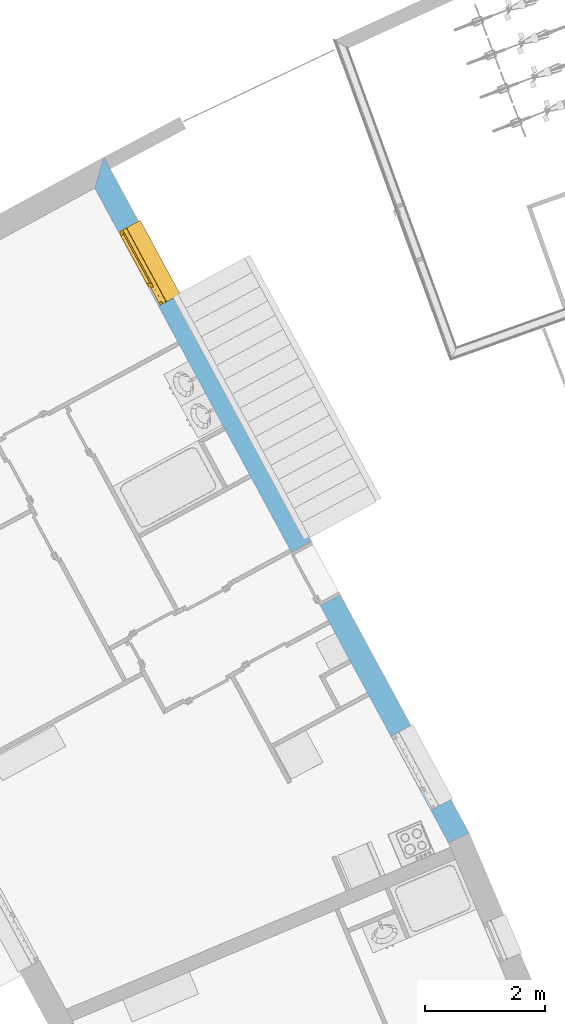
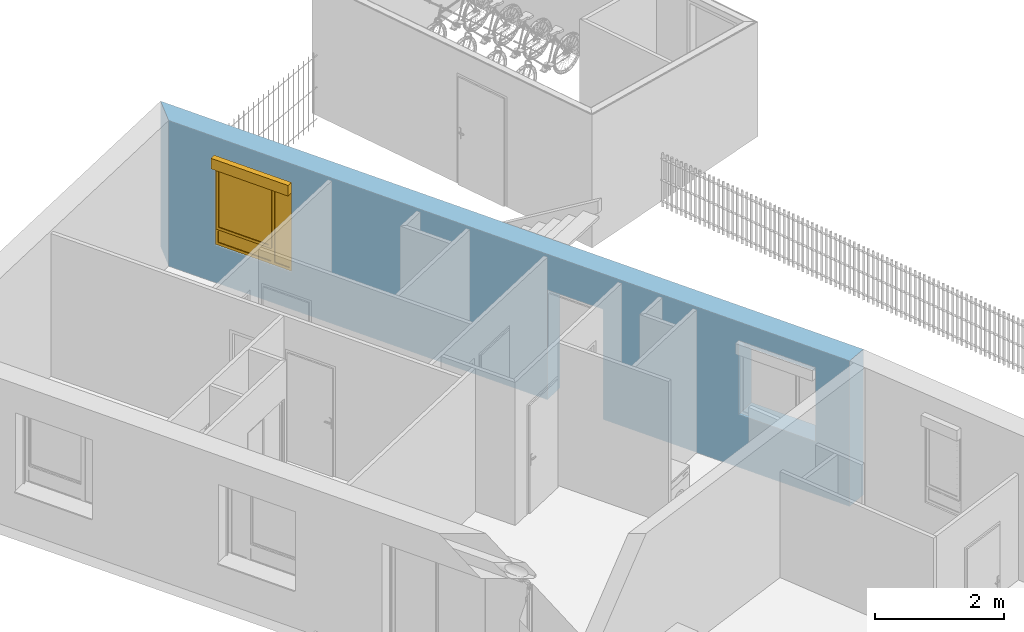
# One storey, part 67 of 195: 1 window, 3 openings, plus 1 element that does not belong to this part.
"""IFC2X3 building model written with IfcOpenShell, lengths in metres."""

from ifc_helpers import new_model, entity, si_unit, converted_unit, derived_unit, money_unit, direction, frame, origin_with_axes, origin_2d_with_axis, place, context, subcontext, project, spatial, polyline, rectangle, outline, extrude, open_shell, faceted_brep, surface_model, source, transform, mapped, material, layer, layer_set, layer_usage, type_object, element, fill, save


model = new_model("IFC2X3")

# Units and contexts
model_context = context("Model", 3, precision=1e-05, world=origin_with_axes(), true_north=direction((0.0, 1.0)))
body_context = subcontext(model_context, "Body", "Model", "MODEL_VIEW")
ifc_project = project(units=[si_unit("LENGTHUNIT", "METRE"), si_unit("AREAUNIT", "SQUARE_METRE"), si_unit("VOLUMEUNIT", "CUBIC_METRE"), converted_unit("PLANEANGLEUNIT", "DEGREE", entity("IfcPlaneAngleMeasure", 0.0174532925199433), si_unit("PLANEANGLEUNIT", "RADIAN"), dimensions=[0, 0, 0, 0, 0, 0, 0]), money_unit("CHF"), converted_unit("TIMEUNIT", "Year", entity("IfcTimeMeasure", 31557600.0), si_unit("TIMEUNIT", "SECOND"), dimensions=[0, 0, 1, 0, 0, 0, 0]), si_unit("MASSUNIT", "GRAM", prefix="KILO"), si_unit("THERMODYNAMICTEMPERATUREUNIT", "DEGREE_CELSIUS"), si_unit("LUMINOUSINTENSITYUNIT", "LUMEN"), si_unit("ENERGYUNIT", "JOULE", prefix="MEGA"), derived_unit("THERMALCONDUCTANCEUNIT", [(si_unit("POWERUNIT", "WATT"), 1), (si_unit("LENGTHUNIT", "METRE"), -1), (si_unit("THERMODYNAMICTEMPERATUREUNIT", "KELVIN"), -1)]), derived_unit("SPECIFICHEATCAPACITYUNIT", [(si_unit("ENERGYUNIT", "JOULE"), 1), (si_unit("MASSUNIT", "GRAM", prefix="KILO"), -1), (si_unit("THERMODYNAMICTEMPERATUREUNIT", "KELVIN"), -1)]), derived_unit("MASSDENSITYUNIT", [(si_unit("MASSUNIT", "GRAM", prefix="KILO"), 1), (si_unit("VOLUMEUNIT", "CUBIC_METRE"), -1)])], contexts=[model_context])

# Site, building, storey
site_placement = place(None, origin_with_axes())
site = spatial("IfcSite", under=ifc_project, at=site_placement, Name="Site", CompositionType="ELEMENT")
building_placement = place(site_placement, origin_with_axes())
building = spatial("IfcBuilding", under=site, at=building_placement, Name="Bâtiment", CompositionType="ELEMENT")
storey_placement = place(building_placement, origin_with_axes())
storey = spatial("IfcBuildingStorey", under=building, at=storey_placement, Name="rdc", CompositionType="ELEMENT", Elevation=0.0)

# Wall, openings, window
ifc_material_1 = material(Name="Parpaing 312445824")
ifc_layer_1 = layer(ifc_material_1, 0.22, ventilated="UNKNOWN")
ifc_material_2 = material(Name="Isolant styromousse 301821074")
ifc_layer_2 = layer(ifc_material_2, 0.16, ventilated="UNKNOWN")
ifc_layer_set = layer_set([ifc_layer_1, ifc_layer_2], Name="isol int 22+16 0836643197")
ifc_layer_usage = layer_usage(ifc_layer_set, "AXIS2", "NEGATIVE", 0.0)
wall_type = type_object("IfcWallType", Name="isol int 22+16 0836643197 380", PredefinedType="NOTDEFINED")
wall_placement = place(storey_placement, frame((9561.285709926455, -1024.008620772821, 57.7), z_axis=(0.0, 0.0, 1.0), x_axis=(0.4753186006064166, -0.8798137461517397, 0.0)))
wall = element("IfcWallStandardCase", 1, at=wall_placement, inside=storey, type_object=wall_type, material=ifc_layer_usage, Name="Mur-113", context=body_context, shape_type="SweptSolid", body=[
    extrude(outline(polyline([(0.3809761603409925, -0.3800000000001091), (12.75104633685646, -0.3800000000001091), (12.76934803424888, 0.0), (0.0, 0.0), (0.3809761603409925, -0.3800000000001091)])), origin_with_axes(), (0.0, 0.0, 1.0), 2.75),
])
opening_1_placement = place(wall_placement, frame((1.910548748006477, 0.0, 0.7000000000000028), z_axis=(0.0, 0.0, 1.0), x_axis=(1.0, 0.0, 0.0)))
opening_1 = element("IfcOpeningElement", 2, at=opening_1_placement, cuts=wall, Name="Fen-045", context=body_context, shape_type="Brep", body=[
    faceted_brep([(-0.6999999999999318, -0.2199999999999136, 1.5), (0.7000000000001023, -0.2199999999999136, 1.5), (0.7000000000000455, 5.341037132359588, 1.5), (-0.6999999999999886, 5.341037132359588, 1.5), (-0.6999999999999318, -0.2199999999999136, 1.700000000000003), (0.7000000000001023, -0.2199999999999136, 1.700000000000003), (0.7000000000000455, -0.3000000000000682, 1.5), (0.7000000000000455, -0.3000000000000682, 0.0), (0.7000000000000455, 5.341037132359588, 0.0), (-0.6999999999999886, 5.341037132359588, 0.0), (-0.6999999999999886, -0.2999999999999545, 1.5), (-0.7000000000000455, -0.2999999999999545, 0.0), (-0.6999999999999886, -0.4800000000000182, 1.5), (-0.6999999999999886, -0.4800000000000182, 1.700000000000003), (0.7000000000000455, -0.4800000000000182, 1.700000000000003), (0.7000000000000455, -0.4800000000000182, 1.5), (0.6999999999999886, -5.721037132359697, 1.5), (0.6999999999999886, -5.721037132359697, 0.0), (-0.7000000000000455, -5.721037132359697, 0.0), (-0.7000000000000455, -5.721037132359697, 1.5)], [[[0, 1, 2, 3]], [[1, 0, 4, 5]], [[1, 6, 7, 8, 2]], [[2, 8, 9, 3]], [[10, 0, 3, 9, 11]], [[0, 10, 12, 13, 4]], [[14, 5, 4, 13]], [[6, 1, 5, 14, 15]], [[6, 15, 16, 17, 7]], [[7, 11, 9, 8]], [[12, 10, 11, 18, 19]], [[12, 15, 14, 13]], [[15, 12, 19, 16]], [[19, 18, 17, 16]], [[11, 7, 17, 18]]]),
])
opening_2_placement = place(wall_placement, frame((11.43670824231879, 0.0, 1.0), z_axis=(0.0, 0.0, 1.0), x_axis=(1.0, 0.0, 0.0)))
element("IfcOpeningElement", 3, at=opening_2_placement, cuts=wall, Name="Fen-045", context=body_context, shape_type="Brep", body=[
    faceted_brep([(-0.6999999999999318, -0.2199999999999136, 1.200000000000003), (0.7000000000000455, -0.2199999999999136, 1.200000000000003), (0.7000000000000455, 5.341037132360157, 1.200000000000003), (-0.6999999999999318, 5.341037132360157, 1.200000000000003), (-0.6999999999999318, -0.2199999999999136, 1.399999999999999), (0.7000000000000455, -0.2199999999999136, 1.399999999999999), (0.7000000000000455, -0.2999999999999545, 1.200000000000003), (0.7000000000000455, -0.2999999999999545, 0.0), (0.7000000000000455, 5.341037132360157, 0.0), (-0.6999999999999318, 5.341037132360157, 0.0), (-0.7000000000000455, -0.2999999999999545, 1.200000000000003), (-0.7000000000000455, -0.2999999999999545, 0.0), (-0.7000000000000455, -0.4800000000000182, 1.200000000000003), (-0.7000000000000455, -0.4800000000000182, 1.399999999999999), (0.7000000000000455, -0.4800000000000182, 1.399999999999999), (0.7000000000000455, -0.4800000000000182, 1.200000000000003), (0.7000000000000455, -5.721037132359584, 1.200000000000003), (0.7000000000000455, -5.721037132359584, 0.0), (-0.7000000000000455, -5.721037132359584, 0.0), (-0.7000000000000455, -5.721037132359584, 1.200000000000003)], [[[0, 1, 2, 3]], [[1, 0, 4, 5]], [[1, 6, 7, 8, 2]], [[2, 8, 9, 3]], [[10, 0, 3, 9, 11]], [[0, 10, 12, 13, 4]], [[14, 5, 4, 13]], [[6, 1, 5, 14, 15]], [[6, 15, 16, 17, 7]], [[7, 11, 9, 8]], [[12, 10, 11, 18, 19]], [[12, 15, 14, 13]], [[15, 12, 19, 16]], [[19, 18, 17, 16]], [[11, 7, 17, 18]]]),
])
opening_3_placement = place(wall_placement, frame((7.765329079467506, 0.0, 0.0), z_axis=(0.0, 0.0, 1.0), x_axis=(1.0, 0.0, 0.0)))
element("IfcOpeningElement", 4, at=opening_3_placement, cuts=wall, Name="Por-290", context=body_context, shape_type="SweptSolid", body=[
    extrude(rectangle(XDim=1.01000001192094, YDim=2.079999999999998, at=origin_2d_with_axis()), frame((-5.960487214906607e-09, 0.3799999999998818, 1.039999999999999), z_axis=(0.0, -1.0, 0.0), x_axis=(-1.0, 0.0, 0.0)), (0.0, 0.0, 1.0), 0.76),
])
window_style = type_object("IfcWindowStyle", Name="Fenêtre variable 27", ConstructionType="NOTDEFINED", OperationType="TRIPLE_PANEL_LEFT", ParameterTakesPrecedence=False, Sizeable=False)
shared_shape = source(origin_with_axes(), body_context, "Body", "SurfaceModel", [
    surface_model("IfcShellBasedSurfaceModel", [(0.7, -0.05100000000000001, 0.05), (-0.7, -0.05100000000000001, 0.05000000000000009), (-0.7, -0.05100000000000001, 0.04000000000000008), (0.7, -0.05100000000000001, 0.04), (-0.7, -0.3799999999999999, 0.02900000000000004), (0.7, -0.3799999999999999, 0.02899999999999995), (-0.7, -0.3799999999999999, 0.00900000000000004), (0.7, -0.3799999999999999, 0.008999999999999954), (-0.7, -0.3699999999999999, 0.01900000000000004), (0.7, -0.3699999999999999, 0.01899999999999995)], [open_shell([[[0, 1, 2, 3]], [[3, 2, 4, 5]], [[5, 4, 6, 7]], [[7, 6, 8, 9]]])]),
    faceted_brep([(0.7, -0.13, 1.7), (0.7, 0.13, 1.7), (0.697, 0.13, 1.7), (0.697, -0.13, 1.7), (0.7, -0.13, 1.5), (0.7, 0.13, 1.5), (0.697, 0.13, 1.5), (0.697, -0.13, 1.5)], [[[0, 1, 2, 3]], [[0, 4, 5, 1]], [[1, 5, 6, 2]], [[3, 2, 6, 7]], [[4, 0, 3, 7]], [[5, 4, 7, 6]]]),
    faceted_brep([(-0.6970000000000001, -0.1299999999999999, 1.7), (-0.6970000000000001, 0.1300000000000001, 1.7), (-0.7000000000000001, 0.1300000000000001, 1.7), (-0.7000000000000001, -0.1299999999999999, 1.7), (-0.6970000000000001, -0.1299999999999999, 1.5), (-0.6970000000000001, 0.1300000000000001, 1.5), (-0.7000000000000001, 0.1300000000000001, 1.5), (-0.7000000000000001, -0.1299999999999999, 1.5)], [[[0, 1, 2, 3]], [[0, 4, 5, 1]], [[1, 5, 6, 2]], [[3, 2, 6, 7]], [[4, 0, 3, 7]], [[5, 4, 7, 6]]]),
    faceted_brep([(0.697, -0.13, 1.5), (0.697, -0.13, 1.7), (-0.697, -0.1299999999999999, 1.7), (-0.697, -0.1299999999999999, 1.5), (0.697, -0.127, 1.5), (0.697, -0.127, 1.697), (0.697, 0.127, 1.697), (0.697, 0.127, 1.503), (0.697, -0.108, 1.503), (0.697, -0.108, 1.5), (0.697, 0.13, 1.5), (0.697, 0.13, 1.7), (-0.697, 0.1300000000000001, 1.7), (-0.697, 0.1300000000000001, 1.5), (-0.697, -0.1079999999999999, 1.5), (-0.697, -0.1079999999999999, 1.503), (-0.697, 0.1270000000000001, 1.503), (-0.697, 0.1270000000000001, 1.697), (-0.697, -0.1269999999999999, 1.697), (-0.697, -0.1269999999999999, 1.5)], [[[0, 1, 2, 3]], [[0, 4, 5, 6, 7, 8, 9, 10, 11, 1]], [[1, 11, 12, 2]], [[3, 2, 12, 13, 14, 15, 16, 17, 18, 19]], [[4, 0, 3, 19]], [[5, 4, 19, 18]], [[6, 5, 18, 17]], [[7, 6, 17, 16]], [[8, 7, 16, 15]], [[9, 8, 15, 14]], [[10, 9, 14, 13]], [[11, 10, 13, 12]]]),
    faceted_brep([(0.694, -0.08075423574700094, 1.585760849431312), (0.694, -0.07705479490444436, 1.571954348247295), (0.694, -0.07101408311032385, 1.559), (0.694, -0.06281564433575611, 1.547291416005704), (0.694, -0.05270858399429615, 1.537184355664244), (0.694, -0.04099999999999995, 1.528985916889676), (0.694, -0.02804565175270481, 1.522945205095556), (0.694, -0.01423915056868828, 1.519245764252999), (0.694, 0.0, 1.518), (0.694, 0.01423915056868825, 1.519245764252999), (0.694, 0.02804565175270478, 1.522945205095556), (0.694, 0.04099999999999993, 1.528985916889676), (0.694, 0.05270858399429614, 1.537184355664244), (0.694, 0.06281564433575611, 1.547291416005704), (0.694, 0.07101408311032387, 1.559), (0.694, 0.07705479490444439, 1.571954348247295), (0.694, 0.08075423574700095, 1.585760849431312), (0.694, 0.0819999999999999, 1.6), (0.694, 0.08075423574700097, 1.614239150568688), (0.694, 0.0770547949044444, 1.628045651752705), (0.694, 0.07101408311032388, 1.641), (0.694, 0.06281564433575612, 1.652708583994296), (0.694, 0.05270858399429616, 1.662815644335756), (0.694, 0.04099999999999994, 1.671014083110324), (0.694, 0.02804565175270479, 1.677054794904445), (0.694, 0.01423915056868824, 1.680754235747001), (0.694, 0.0, 1.682), (0.694, -0.01423915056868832, 1.680754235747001), (0.694, -0.02804565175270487, 1.677054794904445), (0.694, -0.04100000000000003, 1.671014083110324), (0.694, -0.05270858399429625, 1.662815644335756), (0.694, -0.06281564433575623, 1.652708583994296), (0.694, -0.07101408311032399, 1.641), (0.694, -0.07705479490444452, 1.628045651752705), (0.694, -0.0807542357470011, 1.614239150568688), (0.694, -0.08200000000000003, 1.6), (-0.694, -0.08075423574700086, 1.585760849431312), (-0.694, -0.07705479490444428, 1.571954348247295), (-0.694, -0.07101408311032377, 1.559), (-0.694, -0.06281564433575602, 1.547291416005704), (-0.694, -0.05270858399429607, 1.537184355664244), (-0.694, -0.04099999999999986, 1.528985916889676), (-0.694, -0.02804565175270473, 1.522945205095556), (-0.694, -0.0142391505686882, 1.519245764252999), (-0.694, 0.0, 1.518), (-0.694, 0.01423915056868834, 1.519245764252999), (-0.694, 0.02804565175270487, 1.522945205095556), (-0.694, 0.04100000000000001, 1.528985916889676), (-0.694, 0.05270858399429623, 1.537184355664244), (-0.694, 0.06281564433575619, 1.547291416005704), (-0.694, 0.07101408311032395, 1.559), (-0.694, 0.07705479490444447, 1.571954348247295), (-0.694, 0.08075423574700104, 1.585760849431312), (-0.694, 0.08199999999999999, 1.6), (-0.694, 0.08075423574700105, 1.614239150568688), (-0.694, 0.07705479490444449, 1.628045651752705), (-0.694, 0.07101408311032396, 1.641), (-0.694, 0.0628156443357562, 1.652708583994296), (-0.694, 0.05270858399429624, 1.662815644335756), (-0.694, 0.04100000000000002, 1.671014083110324), (-0.694, 0.02804565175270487, 1.677054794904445), (-0.694, 0.01423915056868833, 1.680754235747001), (-0.694, 0.0, 1.682), (-0.694, -0.01423915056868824, 1.680754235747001), (-0.694, -0.02804565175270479, 1.677054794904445), (-0.694, -0.04099999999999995, 1.671014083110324), (-0.694, -0.05270858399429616, 1.662815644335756), (-0.694, -0.06281564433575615, 1.652708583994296), (-0.694, -0.07101408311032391, 1.641), (-0.694, -0.07705479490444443, 1.628045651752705), (-0.694, -0.08075423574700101, 1.614239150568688), (-0.694, -0.08199999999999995, 1.6)], [[[0, 1, 2, 3, 4, 5, 6, 7, 8, 9, 10, 11, 12, 13, 14, 15, 16, 17, 18, 19, 20, 21, 22, 23, 24, 25, 26, 27, 28, 29, 30, 31, 32, 33, 34, 35]], [[1, 0, 36, 37]], [[2, 1, 37, 38]], [[3, 2, 38, 39]], [[4, 3, 39, 40]], [[5, 4, 40, 41]], [[6, 5, 41, 42]], [[7, 6, 42, 43]], [[8, 7, 43, 44]], [[9, 8, 44, 45]], [[10, 9, 45, 46]], [[11, 10, 46, 47]], [[12, 11, 47, 48]], [[13, 12, 48, 49]], [[14, 13, 49, 50]], [[15, 14, 50, 51]], [[16, 15, 51, 52]], [[17, 16, 52, 53]], [[18, 17, 53, 54]], [[19, 18, 54, 55]], [[20, 19, 55, 56]], [[21, 20, 56, 57]], [[22, 21, 57, 58]], [[23, 22, 58, 59]], [[24, 23, 59, 60]], [[25, 24, 60, 61]], [[26, 25, 61, 62]], [[27, 26, 62, 63]], [[28, 27, 63, 64]], [[29, 28, 64, 65]], [[30, 29, 65, 66]], [[31, 30, 66, 67]], [[32, 31, 67, 68]], [[33, 32, 68, 69]], [[34, 33, 69, 70]], [[35, 34, 70, 71]], [[0, 35, 71, 36]], [[36, 71, 70, 69, 68, 67, 66, 65, 64, 63, 62, 61, 60, 59, 58, 57, 56, 55, 54, 53, 52, 51, 50, 49, 48, 47, 46, 45, 44, 43, 42, 41, 40, 39, 38, 37]]]),
    faceted_brep([(-0.7, -0.105, 0.03), (-0.7, -0.13, 0.03), (-0.7, -0.1299999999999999, 1.5), (-0.7, -0.1049999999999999, 1.5), (-0.6749999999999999, -0.105, 0.03), (-0.6749999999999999, -0.108, 0.03), (-0.697, -0.108, 0.03), (-0.697, -0.127, 0.03), (-0.6749999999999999, -0.127, 0.03), (-0.6749999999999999, -0.13, 0.03), (-0.6749999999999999, -0.1299999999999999, 1.5), (-0.6749999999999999, -0.1269999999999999, 1.5), (-0.697, -0.1269999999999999, 1.5), (-0.697, -0.1079999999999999, 1.5), (-0.6749999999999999, -0.1079999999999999, 1.5), (-0.6749999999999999, -0.1049999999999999, 1.5)], [[[0, 1, 2, 3]], [[0, 4, 5, 6, 7, 8, 9, 1]], [[1, 9, 10, 2]], [[3, 2, 10, 11, 12, 13, 14, 15]], [[4, 0, 3, 15]], [[5, 4, 15, 14]], [[6, 5, 14, 13]], [[7, 6, 13, 12]], [[8, 7, 12, 11]], [[9, 8, 11, 10]]]),
    faceted_brep([(0.7, -0.105, 0.03), (0.7, -0.1049999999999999, 1.5), (0.7, -0.1299999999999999, 1.5), (0.7, -0.13, 0.03), (0.6749999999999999, -0.105, 0.03), (0.6749999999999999, -0.1049999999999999, 1.5), (0.6749999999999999, -0.1079999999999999, 1.5), (0.697, -0.1079999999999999, 1.5), (0.697, -0.1269999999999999, 1.5), (0.6749999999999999, -0.1269999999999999, 1.5), (0.6749999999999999, -0.1299999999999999, 1.5), (0.6749999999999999, -0.13, 0.03), (0.6749999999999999, -0.127, 0.03), (0.697, -0.127, 0.03), (0.697, -0.108, 0.03), (0.6749999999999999, -0.108, 0.03)], [[[0, 1, 2, 3]], [[4, 5, 1, 0]], [[1, 5, 6, 7, 8, 9, 10, 2]], [[3, 2, 10, 11]], [[0, 3, 11, 12, 13, 14, 15, 4]], [[15, 6, 5, 4]], [[14, 7, 6, 15]], [[13, 8, 7, 14]], [[12, 9, 8, 13]], [[11, 10, 9, 12]]]),
    surface_model("IfcShellBasedSurfaceModel", [(0.697, -0.115, 1.6), (-0.697, -0.1149999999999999, 1.6), (-0.697, -0.12, 1.6), (0.697, -0.12, 1.6), (0.697, -0.115, 1.6), (0.697, -0.12, 1.6), (-0.697, -0.1199999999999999, 1.6), (-0.697, -0.1149999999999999, 1.6)], [open_shell([[[0, 1, 2, 3]], [[4, 5, 6, 7]]])]),
    faceted_brep([(0.697, -0.115, 1.6), (0.697, -0.1166666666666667, 1.583333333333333), (-0.697, -0.1166666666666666, 1.583333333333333), (-0.697, -0.1149999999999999, 1.6), (0.697, -0.12, 1.6), (0.697, -0.1216666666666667, 1.583333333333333), (0.697, -0.1216666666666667, 1.566666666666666), (0.697, -0.12, 1.55), (0.697, -0.115, 1.55), (0.697, -0.1166666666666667, 1.566666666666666), (-0.697, -0.1166666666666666, 1.566666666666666), (-0.697, -0.1149999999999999, 1.55), (-0.697, -0.1199999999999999, 1.55), (-0.697, -0.1216666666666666, 1.566666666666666), (-0.697, -0.1216666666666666, 1.583333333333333), (-0.697, -0.1199999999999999, 1.6)], [[[0, 1, 2, 3]], [[0, 4, 5, 6, 7, 8, 9, 1]], [[1, 9, 10, 2]], [[3, 2, 10, 11, 12, 13, 14, 15]], [[4, 0, 3, 15]], [[5, 4, 15, 14]], [[6, 5, 14, 13]], [[7, 6, 13, 12]], [[8, 7, 12, 11]], [[9, 8, 11, 10]]]),
    faceted_brep([(0.697, -0.115, 1.55), (0.697, -0.1166666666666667, 1.533333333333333), (-0.697, -0.1166666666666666, 1.533333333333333), (-0.697, -0.1149999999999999, 1.55), (0.697, -0.12, 1.55), (0.697, -0.1216666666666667, 1.533333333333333), (0.697, -0.1216666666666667, 1.516666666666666), (0.697, -0.12, 1.5), (0.697, -0.115, 1.5), (0.697, -0.1166666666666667, 1.516666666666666), (-0.697, -0.1166666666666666, 1.516666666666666), (-0.697, -0.1149999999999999, 1.5), (-0.697, -0.1199999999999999, 1.5), (-0.697, -0.1216666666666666, 1.516666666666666), (-0.697, -0.1216666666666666, 1.533333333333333), (-0.697, -0.1199999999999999, 1.55)], [[[0, 1, 2, 3]], [[0, 4, 5, 6, 7, 8, 9, 1]], [[1, 9, 10, 2]], [[3, 2, 10, 11, 12, 13, 14, 15]], [[4, 0, 3, 15]], [[5, 4, 15, 14]], [[6, 5, 14, 13]], [[7, 6, 13, 12]], [[8, 7, 12, 11]], [[9, 8, 11, 10]]]),
    faceted_brep([(0.6749999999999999, 0.0, 1.45), (0.6749999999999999, -0.02500000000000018, 1.45), (0.6499999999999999, -0.02500000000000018, 1.45), (0.6499999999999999, -0.05000000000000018, 1.45), (0.7, -0.05000000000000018, 1.45), (0.7, 0.0, 1.45), (0.6749999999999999, 0.0, 0.3099999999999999), (0.6749999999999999, -0.02500000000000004, 0.3099999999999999), (0.6499999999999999, -0.02500000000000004, 0.335), (0.6499999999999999, -0.02500000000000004, 0.3099999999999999), (0.6499999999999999, -0.05000000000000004, 0.335), (0.6499999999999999, -0.05000000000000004, 0.265), (0.6499999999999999, -0.05000000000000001, 0.05000000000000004), (0.7, -0.05000000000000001, 0.05000000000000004), (0.7, 0.0, 0.05000000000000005), (0.6499999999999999, 0.0, 0.05000000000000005), (0.6499999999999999, 0.0, 0.265), (0.6499999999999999, 0.0, 0.3099999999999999)], [[[0, 1, 2, 3, 4, 5]], [[1, 0, 6, 7]], [[8, 2, 1, 7, 9]], [[2, 8, 10, 3]], [[10, 11, 12, 13, 4, 3]], [[5, 4, 13, 14]], [[6, 0, 5, 14, 15, 16, 17]], [[6, 17, 9, 7]], [[9, 17, 16, 11, 10, 8]], [[15, 12, 11, 16]], [[14, 13, 12, 15]]]),
    faceted_brep([(-0.3068894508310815, -0.02500000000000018, 1.45), (-0.3318894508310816, -0.02500000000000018, 1.45), (-0.3318894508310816, 0.0, 1.45), (-0.3768894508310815, 0.0, 1.45), (-0.3768894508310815, -0.05000000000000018, 1.45), (-0.3068894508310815, -0.05000000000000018, 1.45), (-0.3068894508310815, -0.02500000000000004, 0.335), (-0.3068894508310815, -0.02500000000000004, 0.3099999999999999), (-0.3318894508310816, -0.02500000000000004, 0.3099999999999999), (-0.3318894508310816, 0.0, 0.3099999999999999), (-0.3068894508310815, 0.0, 0.3099999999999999), (-0.3068894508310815, 0.0, 0.265), (-0.3068894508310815, 0.0, 0.05000000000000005), (-0.3768894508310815, 0.0, 0.05000000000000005), (-0.3768894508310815, -0.05000000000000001, 0.05000000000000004), (-0.3068894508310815, -0.05000000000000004, 0.265), (-0.3068894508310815, -0.05000000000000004, 0.335), (-0.3068894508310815, -0.05000000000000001, 0.05000000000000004)], [[[0, 1, 2, 3, 4, 5]], [[1, 0, 6, 7, 8]], [[9, 2, 1, 8]], [[9, 10, 11, 12, 13, 3, 2]], [[13, 14, 4, 3]], [[15, 16, 5, 4, 14, 17]], [[6, 0, 5, 16]], [[7, 6, 16, 15, 11, 10]], [[10, 9, 8, 7]], [[11, 15, 17, 12]], [[12, 17, 14, 13]]]),
    faceted_brep([(0.6499999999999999, -0.02500000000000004, 0.335), (-0.3068894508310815, -0.02500000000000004, 0.335), (-0.3068894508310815, -0.05000000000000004, 0.335), (0.6499999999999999, -0.05000000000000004, 0.335), (-0.3068894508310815, -0.02500000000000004, 0.3099999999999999), (0.6499999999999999, -0.02500000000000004, 0.3099999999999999), (-0.3068894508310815, 0.0, 0.3099999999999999), (-0.3068894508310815, 0.0, 0.265), (-0.3068894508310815, -0.05000000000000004, 0.265), (0.6499999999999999, -0.05000000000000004, 0.265), (0.6499999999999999, 0.0, 0.265), (0.6499999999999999, 0.0, 0.3099999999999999)], [[[0, 1, 2, 3]], [[4, 1, 0, 5]], [[4, 6, 7, 8, 2, 1]], [[2, 8, 9, 3]], [[5, 0, 3, 9, 10, 11]], [[11, 6, 4, 5]], [[6, 11, 10, 7]], [[10, 9, 8, 7]]]),
    faceted_brep([(0.6749999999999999, 0.0, 1.45), (0.6749999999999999, 0.0, 1.475), (-0.3318894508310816, 0.0, 1.475), (-0.3318894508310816, 0.0, 1.45), (-0.3768894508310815, 0.0, 1.45), (-0.6499999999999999, 0.0, 1.45), (-0.7, 0.0, 1.45), (-0.7, 0.0, 1.5), (0.7, 0.0, 1.5), (0.7, 0.0, 1.45), (0.6749999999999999, -0.02500000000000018, 1.45), (0.6749999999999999, -0.02500000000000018, 1.475), (-0.3318894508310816, -0.02500000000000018, 1.475), (-0.3318894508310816, -0.02500000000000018, 1.45), (-0.3068894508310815, -0.02500000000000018, 1.45), (-0.3068894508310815, -0.05000000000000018, 1.45), (-0.3768894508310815, -0.05000000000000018, 1.45), (-0.6499999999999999, -0.05000000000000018, 1.45), (-0.7, -0.05000000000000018, 1.45), (-0.7, -0.05000000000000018, 1.5), (0.7, -0.05000000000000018, 1.5), (0.7, -0.05000000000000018, 1.45), (0.6499999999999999, -0.05000000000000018, 1.45), (0.6499999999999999, -0.02500000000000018, 1.45)], [[[0, 1, 2, 3, 4, 5, 6, 7, 8, 9]], [[1, 0, 10, 11]], [[2, 1, 11, 12]], [[3, 2, 12, 13]], [[13, 14, 15, 16, 4, 3]], [[4, 16, 17, 5]], [[5, 17, 18, 6]], [[6, 18, 19, 7]], [[7, 19, 20, 8]], [[8, 20, 21, 9]], [[10, 0, 9, 21, 22, 23]], [[14, 13, 12, 11, 10, 23]], [[14, 23, 22, 15]], [[16, 15, 22, 21, 20, 19, 18, 17]]]),
    faceted_brep([(-0.6499999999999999, -0.05000000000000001, 0.05), (-0.7, -0.05000000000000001, 0.05), (-0.7, 0.0, 0.05000000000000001), (-0.6499999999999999, 0.0, 0.05000000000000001), (-0.6499999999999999, -0.05000000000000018, 1.45), (-0.7, -0.05000000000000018, 1.45), (-0.7, 0.0, 1.45), (-0.6499999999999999, 0.0, 1.45)], [[[0, 1, 2, 3]], [[0, 4, 5, 1]], [[1, 5, 6, 2]], [[3, 2, 6, 7]], [[4, 0, 3, 7]], [[5, 4, 7, 6]]]),
    faceted_brep([(0.6499999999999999, -0.05000000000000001, 0.05), (0.7, -0.05000000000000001, 0.05), (0.7, 0.0, 0.05000000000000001), (0.6499999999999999, 0.0, 0.05000000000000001), (-0.3068894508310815, -0.05000000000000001, 0.05), (-0.3768894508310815, -0.05000000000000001, 0.05), (-0.6499999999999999, -0.05000000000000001, 0.05), (-0.7, -0.05000000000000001, 0.05), (-0.7, -0.05, 0.0), (0.7, -0.05, 0.0), (0.7, 0.0, 0.0), (-0.7, 0.0, 0.0), (-0.7, 0.0, 0.05000000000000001), (-0.6499999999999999, 0.0, 0.05000000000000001), (-0.3768894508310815, 0.0, 0.05000000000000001), (-0.3068894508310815, 0.0, 0.05000000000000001)], [[[0, 1, 2, 3]], [[0, 4, 5, 6, 7, 8, 9, 1]], [[1, 9, 10, 2]], [[3, 2, 10, 11, 12, 13, 14, 15]], [[4, 0, 3, 15]], [[5, 4, 15, 14]], [[6, 5, 14, 13]], [[7, 6, 13, 12]], [[8, 7, 12, 11]], [[9, 8, 11, 10]]]),
    faceted_brep([(0.625, -0.02500000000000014, 1.425), (0.6749999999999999, -0.02500000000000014, 1.425), (0.6749999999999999, 0.02499999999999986, 1.425), (0.625, 0.02499999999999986, 1.425), (0.625, -0.02500000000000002, 0.3599999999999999), (0.6749999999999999, -0.02500000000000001, 0.3599999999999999), (0.6749999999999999, 0.02499999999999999, 0.3599999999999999), (0.625, 0.02499999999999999, 0.3599999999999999)], [[[0, 1, 2, 3]], [[0, 4, 5, 1]], [[1, 5, 6, 2]], [[3, 2, 6, 7]], [[4, 0, 3, 7]], [[5, 4, 7, 6]]]),
    faceted_brep([(-0.2818894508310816, -0.02500000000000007, 0.3599999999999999), (-0.3318894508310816, -0.02500000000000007, 0.3599999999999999), (-0.3318894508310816, 0.02499999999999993, 0.3599999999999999), (-0.2818894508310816, 0.02499999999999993, 0.3599999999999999), (-0.2818894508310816, -0.0250000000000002, 1.425), (-0.3318894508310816, -0.0250000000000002, 1.425), (-0.3318894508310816, 0.0249999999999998, 1.425), (-0.2818894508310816, 0.0249999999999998, 1.425)], [[[0, 1, 2, 3]], [[0, 4, 5, 1]], [[1, 5, 6, 2]], [[3, 2, 6, 7]], [[4, 0, 3, 7]], [[5, 4, 7, 6]]]),
    faceted_brep([(-0.3318894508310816, -0.02500000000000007, 0.3099999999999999), (-0.3318894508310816, -0.02500000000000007, 0.3599999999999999), (-0.3318894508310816, 0.02499999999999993, 0.3599999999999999), (-0.3318894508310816, 0.02499999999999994, 0.3099999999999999), (0.6749999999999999, -0.025, 0.3099999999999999), (0.6749999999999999, -0.02500000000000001, 0.3599999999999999), (0.625, -0.02500000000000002, 0.3599999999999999), (-0.2818894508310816, -0.02500000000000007, 0.3599999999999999), (-0.2818894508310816, 0.02499999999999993, 0.3599999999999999), (0.625, 0.02499999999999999, 0.3599999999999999), (0.6749999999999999, 0.02499999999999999, 0.3599999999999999), (0.6749999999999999, 0.02499999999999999, 0.3099999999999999)], [[[0, 1, 2, 3]], [[0, 4, 5, 6, 7, 1]], [[1, 7, 8, 2]], [[3, 2, 8, 9, 10, 11]], [[4, 0, 3, 11]], [[5, 4, 11, 10]], [[6, 5, 10, 9]], [[7, 6, 9, 8]]]),
    faceted_brep([(0.6749999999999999, -0.02500000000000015, 1.475), (0.6749999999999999, -0.02500000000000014, 1.425), (0.6749999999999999, 0.02499999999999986, 1.425), (0.6749999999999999, 0.02499999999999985, 1.475), (-0.3318894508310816, -0.02500000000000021, 1.475), (-0.3318894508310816, -0.0250000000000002, 1.425), (-0.2818894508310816, -0.0250000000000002, 1.425), (0.625, -0.02500000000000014, 1.425), (0.625, 0.02499999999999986, 1.425), (-0.2818894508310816, 0.0249999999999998, 1.425), (-0.3318894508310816, 0.0249999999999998, 1.425), (-0.3318894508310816, 0.02499999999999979, 1.475)], [[[0, 1, 2, 3]], [[0, 4, 5, 6, 7, 1]], [[1, 7, 8, 2]], [[3, 2, 8, 9, 10, 11]], [[4, 0, 3, 11]], [[5, 4, 11, 10]], [[6, 5, 10, 9]], [[7, 6, 9, 8]]]),
    surface_model("IfcShellBasedSurfaceModel", [(0.625, -0.01000000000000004, 0.3599999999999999), (0.625, -0.01000000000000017, 1.425), (-0.2818894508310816, -0.01000000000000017, 1.425), (-0.2818894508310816, -0.01000000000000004, 0.3599999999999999)], [open_shell([[[0, 1, 2, 3]]])]),
    surface_model("IfcShellBasedSurfaceModel", [(0.625, 0.009999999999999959, 0.3599999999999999), (-0.2818894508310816, 0.009999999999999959, 0.3599999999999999), (-0.2818894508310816, 0.00999999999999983, 1.425), (0.625, 0.00999999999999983, 1.425)], [open_shell([[[0, 1, 2, 3]]])]),
    surface_model("IfcShellBasedSurfaceModel", [(-0.3768894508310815, -0.035, 0.05), (-0.3768894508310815, -0.03500000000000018, 1.45), (-0.65, -0.03500000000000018, 1.45), (-0.65, -0.035, 0.05)], [open_shell([[[0, 1, 2, 3]]])]),
    surface_model("IfcShellBasedSurfaceModel", [(-0.3768894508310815, -0.015, 0.05), (-0.65, -0.015, 0.05), (-0.65, -0.01500000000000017, 1.45), (-0.3768894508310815, -0.01500000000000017, 1.45)], [open_shell([[[0, 1, 2, 3]]])]),
    surface_model("IfcShellBasedSurfaceModel", [(0.6499999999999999, -0.035, 0.05), (0.6499999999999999, -0.03500000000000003, 0.265), (-0.3068894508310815, -0.03500000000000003, 0.265), (-0.3068894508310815, -0.035, 0.05)], [open_shell([[[0, 1, 2, 3]]])]),
    surface_model("IfcShellBasedSurfaceModel", [(0.6499999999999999, -0.015, 0.05), (-0.3068894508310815, -0.015, 0.05), (-0.3068894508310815, -0.01500000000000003, 0.265), (0.6499999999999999, -0.01500000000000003, 0.265)], [open_shell([[[0, 1, 2, 3]]])]),
])
window_placement = place(opening_1_placement, frame((0.6999999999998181, 0.0, 0.0), z_axis=(0.0, 0.0, 1.0), x_axis=(-1.0, 0.0, 0.0)))
window = element("IfcWindow", 5, at=window_placement, inside=storey, type_object=window_style, Name="Fen-045", OverallHeight=1.5, OverallWidth=1.4, context=body_context, shape_type="MappedRepresentation", body=[
    mapped(shared_shape, transform((0.7000000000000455, 0.3500000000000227, 0.0))),
])
fill(opening_1, window)

save(model, "model.ifc")
